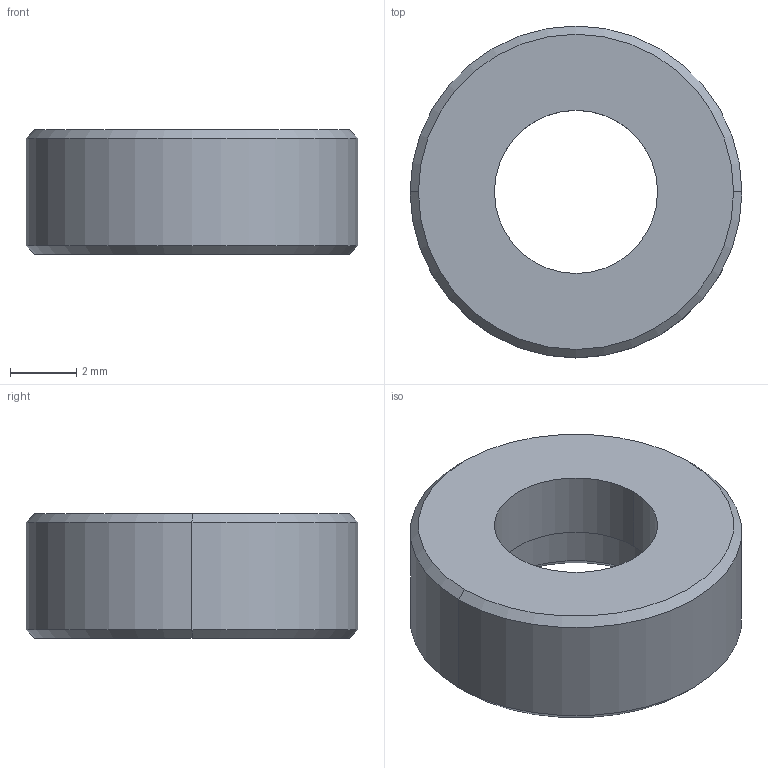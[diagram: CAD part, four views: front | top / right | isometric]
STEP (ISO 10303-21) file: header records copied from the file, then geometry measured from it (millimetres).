
FILE_DESCRIPTION(('CATIA V5 STEP Exchange','CAx-IF Rec.Pracs.--- Model Styling and Organization---1.4--- 2014-01-23','CAx-IF Rec.Pracs.---3D Tessellated Data Validation Properties---0.5---2014-09-14'),'2;1');
FILE_NAME('D:\CTA\NECTARCAM PROD\CTA-01 - Camera Module\CTA-0103 - Backplanes\CTA-010303 - Mechanical Components\CTA-010303-006 - Backplane_Module_Spacer.stp','2026-03-13T09:48:52+00:00',('none'),('none'),'CATIA Version 5-6 Release 2018 SP5 HF4','CATIA V5 STEP AP242','none');
FILE_SCHEMA(('AP242_MANAGED_MODEL_BASED_3D_ENGINEERING_MIM_LF {1 0 10303 442 1 1 4}'));
Length unit declared in the file: millimetre
Products named in the file (1): CTA-010303-006
Bounding box: 10 x 10 x 3.75 mm (x, y, z)
Volume: 201.2 mm3; surface area: 289.8 mm2
Topology: 1 solids, 1 shells, 15 faces, 30 edges, 18 vertices
Faces by surface type: cylinder 6, cone 6, plane 3
Entity records: 386 total; most frequent: CARTESIAN_POINT 61, ORIENTED_EDGE 60, DIRECTION 54, AXIS2_PLACEMENT_3D 31, EDGE_CURVE 30, CIRCLE 18, EDGE_LOOP 18, VERTEX_POINT 18
